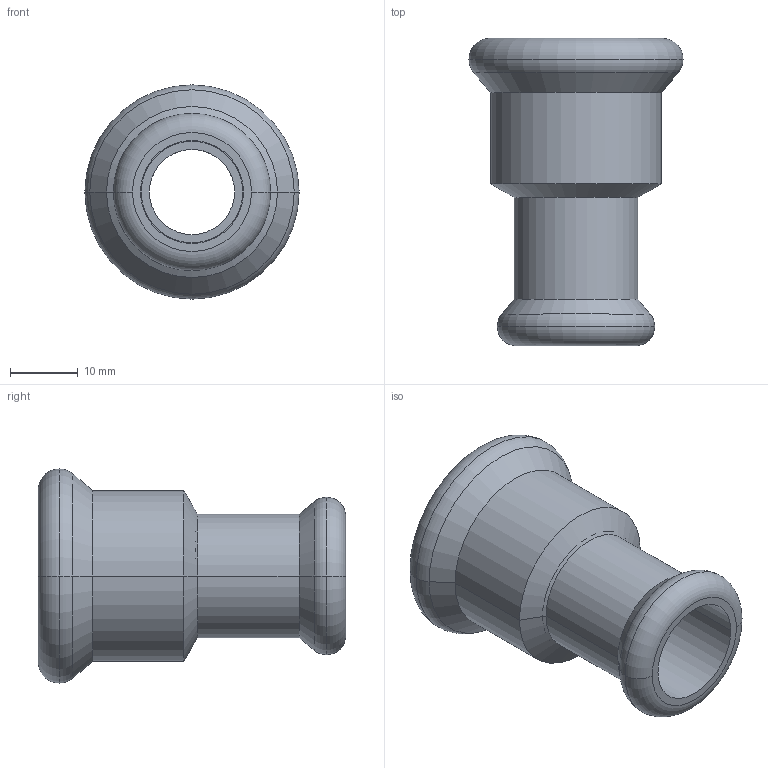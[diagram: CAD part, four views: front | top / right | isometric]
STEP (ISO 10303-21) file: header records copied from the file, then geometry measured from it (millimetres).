
FILE_DESCRIPTION(('CoCreate Modeling STEP Export'),'2;1');
FILE_NAME('C1439 15x22.stp','2014-11-12T16:39:50',(''),(''),'CoCreate Modeling STEP processor for AP214 (Solid Model)','CoCreate Modeling 17.00A 17-Jun-2010 (C) Parametric Technology GmbH','');
FILE_SCHEMA(('AUTOMOTIVE_DESIGN { 1 0 10303 214 1 1 1 1 }'));
Length unit declared in the file: millimetre
Products named in the file (2): C1439_15x22
Assembly tree (1 placements, depth 2):
  C1439_15x22
    C1439_15x22
Bounding box: 31.7 x 45.5 x 31.7 mm (x, y, z)
Volume: 6829.1 mm3; surface area: 7108.9 mm2
Topology: 1 solids, 1 shells, 37 faces, 77 edges, 47 vertices
Faces by surface type: cylinder 16, torus 8, plane 7, cone 6
Entity records: 841 total; most frequent: ORIENTED_EDGE 154, DIRECTION 126, CARTESIAN_POINT 121, EDGE_CURVE 77, AXIS2_PLACEMENT_3D 52, VERTEX_POINT 47, EDGE_LOOP 44, FACE_OUTER_BOUND 37
